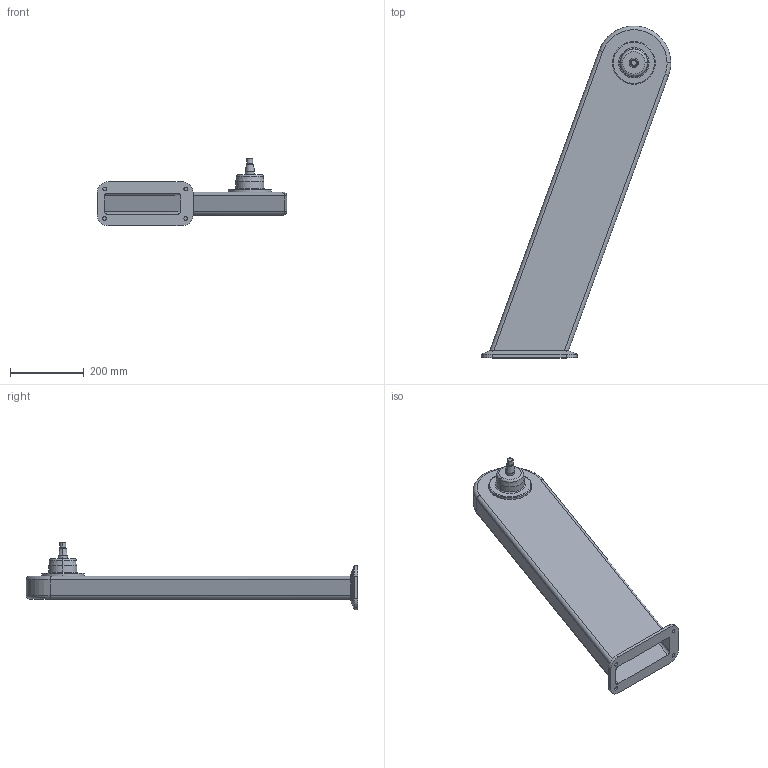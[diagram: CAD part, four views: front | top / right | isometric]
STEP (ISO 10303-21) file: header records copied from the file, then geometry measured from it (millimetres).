
FILE_DESCRIPTION (( 'STEP AP214' ), '1' );
FILE_NAME ('WP800_H800_+20.STEP', '2014-06-26T12:49:50', ( '' ), ( '' ), 'SwSTEP 2.0', 'SolidWorks 2014', '' );
FILE_SCHEMA (( 'AUTOMOTIVE_DESIGN' ));
Length unit declared in the file: millimetre
Products named in the file (1): WP800_H800_+20
Bounding box: 513.9 x 900 x 183.29 mm (x, y, z)
Volume: 1973120.5 mm3; surface area: 993936.8 mm2
Topology: 1 solids, 1 shells, 93 faces, 208 edges, 126 vertices
Faces by surface type: cylinder 36, plane 27, cone 16, torus 14
Entity records: 2620 total; most frequent: DIRECTION 488, CARTESIAN_POINT 464, ORIENTED_EDGE 416, EDGE_CURVE 208, AXIS2_PLACEMENT_3D 198, VERTEX_POINT 126, EDGE_LOOP 104, CIRCLE 104
